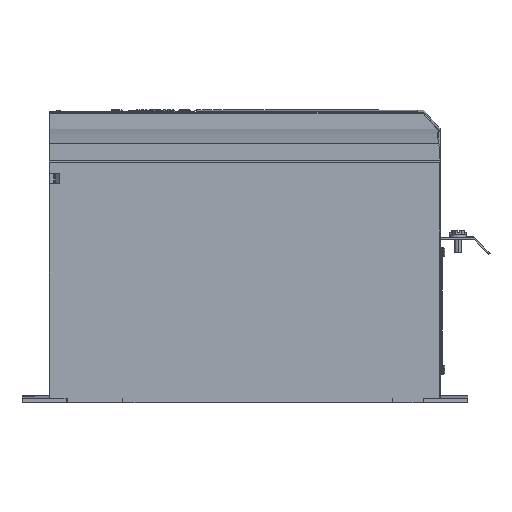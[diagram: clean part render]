
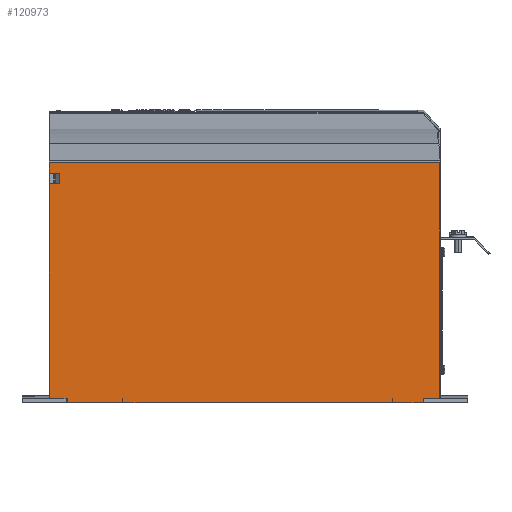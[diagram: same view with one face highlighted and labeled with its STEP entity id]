
A CAD part, left-side view. The second image highlights one B-rep face of the part: STEP entity #120973.
In plain terms, the highlighted planar face has unit normal (-1, 0, 0).
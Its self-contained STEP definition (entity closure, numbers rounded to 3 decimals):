
#43801=DIRECTION('',(0.,1.,0.));
#43802=VECTOR('',#43801,8.146);
#43803=CARTESIAN_POINT('',(-82.5,166.604,205.45));
#43804=LINE('',#43803,#43802);
#43808=DIRECTION('',(0.,0.,1.));
#43809=VECTOR('',#43808,9.2);
#43810=CARTESIAN_POINT('',(-82.5,174.75,205.45));
#43811=LINE('',#43810,#43809);
#43815=DIRECTION('',(0.,1.,0.));
#43816=VECTOR('',#43815,349.25);
#43817=CARTESIAN_POINT('',(-82.5,-174.5,214.65));
#43818=LINE('',#43817,#43816);
#43822=DIRECTION('',(0.,0.,-1.));
#43823=VECTOR('',#43822,210.882);
#43824=CARTESIAN_POINT('',(-82.5,-174.5,214.65));
#43825=LINE('',#43824,#43823);
#43829=DIRECTION('',(0.,1.,0.));
#43830=VECTOR('',#43829,14.95);
#43831=CARTESIAN_POINT('',(-82.5,-174.5,3.768));
#43832=LINE('',#43831,#43830);
#43836=DIRECTION('',(0.,0.,1.));
#43837=VECTOR('',#43836,3.768);
#43838=CARTESIAN_POINT('',(-82.5,-132.589,0.));
#43839=LINE('',#43838,#43837);
#43843=DIRECTION('',(0.,1.,0.));
#43844=VECTOR('',#43843,0.5);
#43845=CARTESIAN_POINT('',(-82.5,-132.589,3.768));
#43846=LINE('',#43845,#43844);
#43850=DIRECTION('',(0.,0.,-1.));
#43851=VECTOR('',#43850,3.775);
#43852=CARTESIAN_POINT('',(-82.5,-132.089,3.768));
#43853=LINE('',#43852,#43851);
#43857=DIRECTION('',(0.,1.,0.));
#43858=VECTOR('',#43857,241.178);
#43859=CARTESIAN_POINT('',(-82.5,-132.089,-0.007));
#43860=LINE('',#43859,#43858);
#43864=DIRECTION('',(0.,0.,1.));
#43865=VECTOR('',#43864,3.775);
#43866=CARTESIAN_POINT('',(-82.5,109.089,-0.007));
#43867=LINE('',#43866,#43865);
#43871=DIRECTION('',(0.,1.,0.));
#43872=VECTOR('',#43871,0.5);
#43873=CARTESIAN_POINT('',(-82.5,109.089,3.768));
#43874=LINE('',#43873,#43872);
#43878=DIRECTION('',(0.,0.,1.));
#43879=VECTOR('',#43878,3.768);
#43880=CARTESIAN_POINT('',(-82.5,109.589,0.));
#43881=LINE('',#43880,#43879);
#43885=DIRECTION('',(0.,1.,0.));
#43886=VECTOR('',#43885,15.594);
#43887=CARTESIAN_POINT('',(-82.5,159.156,3.768));
#43888=LINE('',#43887,#43886);
#43892=DIRECTION('',(0.,0.,1.));
#43893=VECTOR('',#43892,192.182);
#43894=CARTESIAN_POINT('',(-82.5,174.75,3.768));
#43895=LINE('',#43894,#43893);
#43899=DIRECTION('',(0.,1.,0.));
#43900=VECTOR('',#43899,8.854);
#43901=CARTESIAN_POINT('',(-82.5,165.896,195.95));
#43902=LINE('',#43901,#43900);
#43906=DIRECTION('',(0.,0.,-1.));
#43907=VECTOR('',#43906,9.);
#43908=CARTESIAN_POINT('',(-82.5,165.896,
204.95));
#43909=LINE('',#43908,#43907);
#43913=CARTESIAN_POINT('',(-82.5,165.896,
204.95));
#43914=CARTESIAN_POINT('',(-82.5,165.896,
204.967));
#43915=CARTESIAN_POINT('',(-82.5,165.899,
205.001));
#43916=CARTESIAN_POINT('',(-82.5,165.911,
205.055));
#43917=CARTESIAN_POINT('',(-82.5,165.932,
205.111));
#43918=CARTESIAN_POINT('',(-82.5,165.966,
205.17));
#43919=CARTESIAN_POINT('',(-82.5,166.013,
205.228));
#43920=CARTESIAN_POINT('',(-82.5,166.075,
205.285));
#43921=CARTESIAN_POINT('',(-82.5,166.152,
205.337));
#43922=CARTESIAN_POINT('',(-82.5,166.244,
205.383));
#43923=CARTESIAN_POINT('',(-82.5,166.352,
205.42));
#43924=CARTESIAN_POINT('',(-82.5,166.473,
205.444));
#43925=CARTESIAN_POINT('',(-82.5,166.559,
205.45));
#43926=CARTESIAN_POINT('',(-82.5,166.604,205.45));
#44140=CARTESIAN_POINT('',(-82.5,-174.5,3.768));
#44166=CARTESIAN_POINT('',(-82.5,174.75,3.768));
#46313=DIRECTION('',(0.,-1.,0.));
#46314=VECTOR('',#46313,26.961);
#46315=CARTESIAN_POINT('',(-82.5,-132.589,0.));
#46316=LINE('',#46315,#46314);
#46363=DIRECTION('',(0.,0.,1.));
#46364=VECTOR('',#46363,3.768);
#46365=CARTESIAN_POINT('',(-82.5,-159.55,0.));
#46366=LINE('',#46365,#46364);
#47320=DIRECTION('',(0.,0.,1.));
#47321=VECTOR('',#47320,3.768);
#47322=CARTESIAN_POINT('',(-82.5,159.156,0.));
#47323=LINE('',#47322,#47321);
#47363=DIRECTION('',(0.,-1.,0.));
#47364=VECTOR('',#47363,49.567);
#47365=CARTESIAN_POINT('',(-82.5,159.156,0.));
#47366=LINE('',#47365,#47364);
#64376=CARTESIAN_POINT('',(-82.5,-132.089,-0.007));
#64377=CARTESIAN_POINT('',(-82.5,109.089,-0.007));
#64378=VERTEX_POINT('',#64376);
#64379=VERTEX_POINT('',#64377);
#64385=CARTESIAN_POINT('',(-82.5,109.089,3.768));
#64387=VERTEX_POINT('',#64385);
#64389=CARTESIAN_POINT('',(-82.5,-132.089,3.768));
#64391=VERTEX_POINT('',#64389);
#64398=CARTESIAN_POINT('',(-82.5,-132.589,0.));
#64399=VERTEX_POINT('',#64398);
#64400=CARTESIAN_POINT('',(-82.5,-159.55,0.));
#64401=VERTEX_POINT('',#64400);
#64424=CARTESIAN_POINT('',(-82.5,-132.589,3.768));
#64425=VERTEX_POINT('',#64424);
#64426=CARTESIAN_POINT('',(-82.5,-159.55,3.768));
#64428=VERTEX_POINT('',#64426);
#64473=VERTEX_POINT('',#44140);
#64480=CARTESIAN_POINT('',(-82.5,109.589,0.));
#64481=VERTEX_POINT('',#64480);
#64482=CARTESIAN_POINT('',(-82.5,159.156,0.));
#64483=VERTEX_POINT('',#64482);
#64506=CARTESIAN_POINT('',(-82.5,109.589,3.768));
#64507=VERTEX_POINT('',#64506);
#64508=CARTESIAN_POINT('',(-82.5,159.156,3.768));
#64510=VERTEX_POINT('',#64508);
#64917=CARTESIAN_POINT('',(-82.5,-174.5,214.65));
#64919=VERTEX_POINT('',#64917);
#65590=CARTESIAN_POINT('',(-82.5,174.75,214.65));
#65592=VERTEX_POINT('',#65590);
#65594=VERTEX_POINT('',#44166);
#65622=CARTESIAN_POINT('',(-82.5,166.604,205.45));
#65623=CARTESIAN_POINT('',(-82.5,174.75,205.45));
#65624=VERTEX_POINT('',#65622);
#65625=VERTEX_POINT('',#65623);
#65677=VERTEX_POINT('',#43913);
#65681=CARTESIAN_POINT('',(-82.5,165.896,195.95));
#65682=VERTEX_POINT('',#65681);
#65882=CARTESIAN_POINT('',(-82.5,174.75,195.95));
#65884=VERTEX_POINT('',#65882);
#120924=CARTESIAN_POINT('',(-82.5,-175.,3.768));
#120925=DIRECTION('',(-1.,0.,0.));
#120926=DIRECTION('',(0.,0.,1.));
#120927=AXIS2_PLACEMENT_3D('',#120924,#120925,#120926);
#120928=PLANE('',#120927);
#120930=ORIENTED_EDGE('',*,*,#120929,.T.);
#120932=ORIENTED_EDGE('',*,*,#120931,.T.);
#120934=ORIENTED_EDGE('',*,*,#120933,.F.);
#120936=ORIENTED_EDGE('',*,*,#120935,.T.);
#120938=ORIENTED_EDGE('',*,*,#120937,.T.);
#120940=ORIENTED_EDGE('',*,*,#120939,.F.);
#120942=ORIENTED_EDGE('',*,*,#120941,.F.);
#120944=ORIENTED_EDGE('',*,*,#120943,.T.);
#120946=ORIENTED_EDGE('',*,*,#120945,.T.);
#120948=ORIENTED_EDGE('',*,*,#120947,.T.);
#120950=ORIENTED_EDGE('',*,*,#120949,.T.);
#120952=ORIENTED_EDGE('',*,*,#120951,.T.);
#120954=ORIENTED_EDGE('',*,*,#120953,.T.);
#120956=ORIENTED_EDGE('',*,*,#120955,.F.);
#120958=ORIENTED_EDGE('',*,*,#120957,.F.);
#120960=ORIENTED_EDGE('',*,*,#120959,.T.);
#120962=ORIENTED_EDGE('',*,*,#120961,.T.);
#120964=ORIENTED_EDGE('',*,*,#120963,.T.);
#120966=ORIENTED_EDGE('',*,*,#120965,.F.);
#120968=ORIENTED_EDGE('',*,*,#120967,.F.);
#120970=ORIENTED_EDGE('',*,*,#120969,.T.);
#120971=EDGE_LOOP('',(#120930,#120932,#120934,#120936,#120938,#120940,#120942,
#120944,#120946,#120948,#120950,#120952,#120954,#120956,#120958,#120960,#120962,
#120964,#120966,#120968,#120970));
#120972=FACE_OUTER_BOUND('',#120971,.F.);
#120973=ADVANCED_FACE('',(#120972),#120928,.T.);
#43927=B_SPLINE_CURVE_WITH_KNOTS('',3,(#43913,#43914,#43915,#43916,#43917,
#43918,#43919,#43920,#43921,#43922,#43923,#43924,#43925,#43926),.UNSPECIFIED.,
.F.,.F.,(4,1,1,1,1,1,1,1,1,1,1,4),(0.,0.091,0.182,
0.273,0.364,0.455,0.545,
0.636,0.727,0.818,0.909,1.),
.UNSPECIFIED.);
#120929=EDGE_CURVE('',#65624,#65625,#43804,.T.);
#120931=EDGE_CURVE('',#65625,#65592,#43811,.T.);
#120933=EDGE_CURVE('',#64919,#65592,#43818,.T.);
#120935=EDGE_CURVE('',#64919,#64473,#43825,.T.);
#120937=EDGE_CURVE('',#64473,#64428,#43832,.T.);
#120939=EDGE_CURVE('',#64401,#64428,#46366,.T.);
#120941=EDGE_CURVE('',#64399,#64401,#46316,.T.);
#120943=EDGE_CURVE('',#64399,#64425,#43839,.T.);
#120945=EDGE_CURVE('',#64425,#64391,#43846,.T.);
#120947=EDGE_CURVE('',#64391,#64378,#43853,.T.);
#120949=EDGE_CURVE('',#64378,#64379,#43860,.T.);
#120951=EDGE_CURVE('',#64379,#64387,#43867,.T.);
#120953=EDGE_CURVE('',#64387,#64507,#43874,.T.);
#120955=EDGE_CURVE('',#64481,#64507,#43881,.T.);
#120957=EDGE_CURVE('',#64483,#64481,#47366,.T.);
#120959=EDGE_CURVE('',#64483,#64510,#47323,.T.);
#120961=EDGE_CURVE('',#64510,#65594,#43888,.T.);
#120963=EDGE_CURVE('',#65594,#65884,#43895,.T.);
#120965=EDGE_CURVE('',#65682,#65884,#43902,.T.);
#120967=EDGE_CURVE('',#65677,#65682,#43909,.T.);
#120969=EDGE_CURVE('',#65677,#65624,#43927,.T.);
